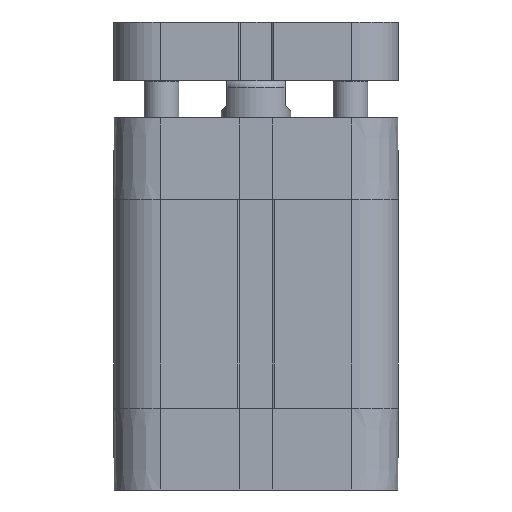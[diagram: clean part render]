
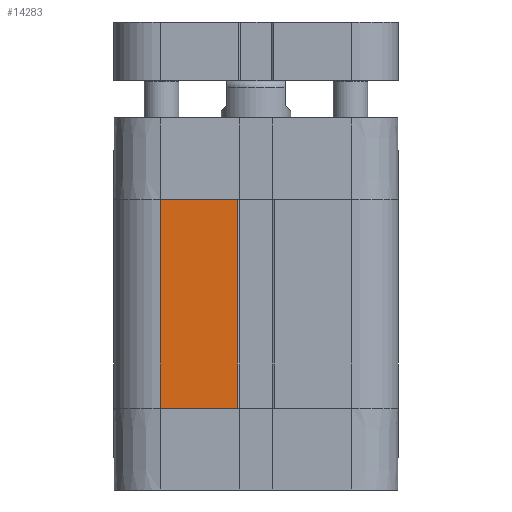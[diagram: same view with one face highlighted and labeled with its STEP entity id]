
A CAD part, left-side view. The second image highlights one B-rep face of the part: STEP entity #14283.
In plain terms, the highlighted planar face has unit normal (-1, 0, 0) as drawn and (1, 0, 0) by its records, which use the part's own axes.
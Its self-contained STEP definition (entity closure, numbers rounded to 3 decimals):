
#464=LINE('',#25741,#1740);
#495=LINE('',#25857,#1771);
#498=LINE('',#25865,#1774);
#499=LINE('',#25867,#1775);
#1740=VECTOR('',#21820,1000.);
#1771=VECTOR('',#21913,1000.);
#1774=VECTOR('',#21922,1000.);
#1775=VECTOR('',#21923,1000.);
#3463=ORIENTED_EDGE('',*,*,#7669,.F.);
#3464=ORIENTED_EDGE('',*,*,#7607,.T.);
#3465=ORIENTED_EDGE('',*,*,#7665,.F.);
#3466=ORIENTED_EDGE('',*,*,#7670,.F.);
#7607=EDGE_CURVE('',#9719,#9718,#464,.T.);
#7665=EDGE_CURVE('',#9772,#9718,#495,.T.);
#7669=EDGE_CURVE('',#9719,#9775,#498,.T.);
#7670=EDGE_CURVE('',#9775,#9772,#499,.T.);
#9718=VERTEX_POINT('',#25740);
#9719=VERTEX_POINT('',#25742);
#9772=VERTEX_POINT('',#25856);
#9775=VERTEX_POINT('',#25866);
#11712=EDGE_LOOP('',(#3463,#3464,#3465,#3466));
#12793=FACE_BOUND('',#11712,.T.);
#13860=PLANE('',#20476);
#14283=ADVANCED_FACE('',(#12793),#13860,.T.);
#20476=AXIS2_PLACEMENT_3D('',#25864,#21920,#21921);
#21820=DIRECTION('',(0.,-1.,0.));
#21913=DIRECTION('',(0.,0.,1.));
#21920=DIRECTION('',(1.,0.,0.));
#21921=DIRECTION('',(0.,0.,-1.));
#21922=DIRECTION('',(0.,0.,-1.));
#21923=DIRECTION('',(0.,-1.,0.));
#25740=CARTESIAN_POINT('',(24.5,-16.5,35.8));
#25741=CARTESIAN_POINT('',(24.5,-3.1,35.8));
#25742=CARTESIAN_POINT('',(24.5,-3.1,35.8));
#25856=CARTESIAN_POINT('',(24.5,-16.5,0.));
#25857=CARTESIAN_POINT('',(24.5,-16.5,0.));
#25864=CARTESIAN_POINT('',(24.5,16.5,0.));
#25865=CARTESIAN_POINT('',(24.5,-3.1,20.8));
#25866=CARTESIAN_POINT('',(24.5,-3.1,0.));
#25867=CARTESIAN_POINT('',(24.5,-3.1,0.));
